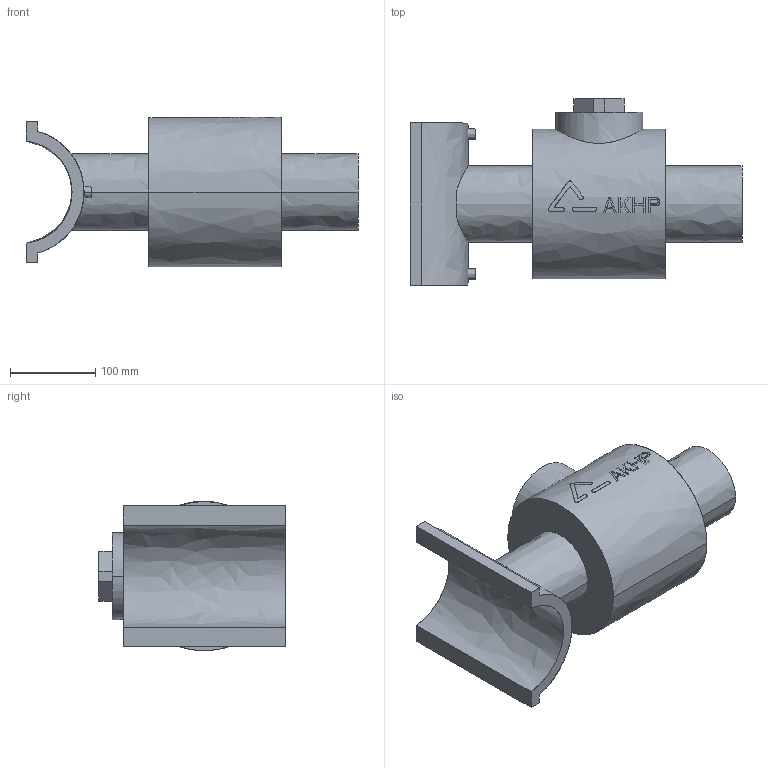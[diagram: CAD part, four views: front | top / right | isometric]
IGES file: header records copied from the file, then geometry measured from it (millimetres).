
Start section:  PTC IGES file: akhp_d110_d90.igs
Global section: file name: akhp_d110_d90.igs; native system: Pro/ENGINEER by Parametric Technology Corporation; preprocessor: 2006140; author: muellerc; organization: Unknown; date: 20060811.085008; units: millimetre
Bounding box: 389 x 218.5 x 175.3 mm (x, y, z)
Surface area: 277701.1 mm2 (no closed solid volume)
Topology: 0 solids, 0 shells, 125 faces, 686 edges, 692 vertices
Faces by surface type: bspline 125
